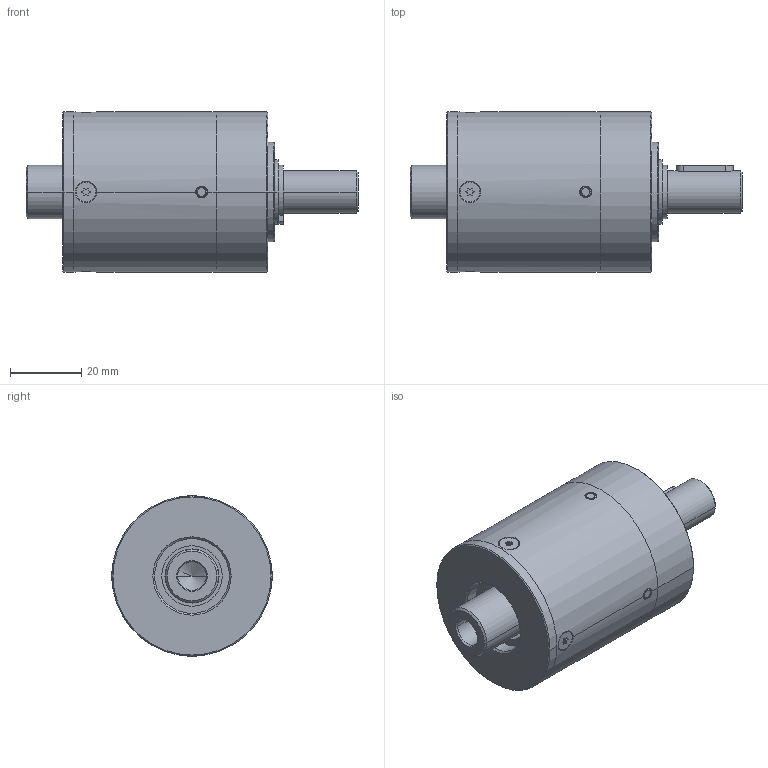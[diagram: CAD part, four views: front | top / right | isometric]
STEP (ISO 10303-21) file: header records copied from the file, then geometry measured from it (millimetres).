
FILE_DESCRIPTION((''),'2;1');
FILE_NAME('IMS45_PRO_MAX_1_STAGE_ASM','2023-07-27T09:44:28',('mhummel'),(''),'CREO PARAMETRIC BY PTC INC, 2020184','CREO PARAMETRIC BY PTC INC, 2020184','');
FILE_SCHEMA(('AUTOMOTIVE_DESIGN { 1 0 10303 214 1 1 1 1 }'));
Length unit declared in the file: millimetre
Products named in the file (16): IMS45_PRO_MAX_BEARING_FLANGE; IMS45_PRO_MAX_BALL_BEARING; IMS45_PRO_MAX_RING_GEAR_1; IMS45_PRO_MAX_CYLINDER_PIN; IMS45_PRO_MAX_RING_GEAR_1_STAGE_ASM; IMS45_PRO_MAX_MOTOR_FLANGE; IMS45_PRO_MAX_SHAFT_RAW_AF0; IMS45_PRO_MAX_SHAFT_ASM; IMS45_PRO_MAX_SHIM_RING; IMS45_PRO_MAX_RETAINING_RING_A; IMS45_PRO_MAX_FEATHER_KEY; IMS45_PRO_MAX_THRUST_WASHER; IMS45_PRO_MAX_SCREW; IMS45_PRO_MAX_MO_PINION_LONG; IMS45_PRO_MAX_MO_PINION_SHORT; IMS45_PRO_MAX_1_STAGE_ASM
Assembly tree (22 placements, depth 3):
  IMS45_PRO_MAX_1_STAGE_ASM
    IMS45_PRO_MAX_BEARING_FLANGE
    IMS45_PRO_MAX_BALL_BEARING  x2
    IMS45_PRO_MAX_RING_GEAR_1_STAGE_ASM
      IMS45_PRO_MAX_RING_GEAR_1
      IMS45_PRO_MAX_CYLINDER_PIN  x4
    IMS45_PRO_MAX_MOTOR_FLANGE
    IMS45_PRO_MAX_SHAFT_ASM
      IMS45_PRO_MAX_SHAFT_RAW_AF0
    IMS45_PRO_MAX_SHIM_RING
    IMS45_PRO_MAX_RETAINING_RING_A
    IMS45_PRO_MAX_FEATHER_KEY
    IMS45_PRO_MAX_THRUST_WASHER
    IMS45_PRO_MAX_SCREW  x4
    IMS45_PRO_MAX_MO_PINION_LONG
    IMS45_PRO_MAX_MO_PINION_SHORT
Bounding box: 93.25 x 45 x 45 mm (x, y, z)
Volume: 74857.9 mm3; surface area: 42568.1 mm2
Topology: 24 solids, 26 shells, 477 faces, 1071 edges, 642 vertices
Faces by surface type: cylinder 202, plane 119, cone 82, torus 58, revolution 16
Entity records: 12777 total; most frequent: CARTESIAN_POINT 2119, DIRECTION 1703, ORIENTED_EDGE 1350, PRESENTATION_STYLE_ASSIGNMENT 767, STYLED_ITEM 765, AXIS2_PLACEMENT_3D 712, CURVE_STYLE 679, EDGE_CURVE 675
